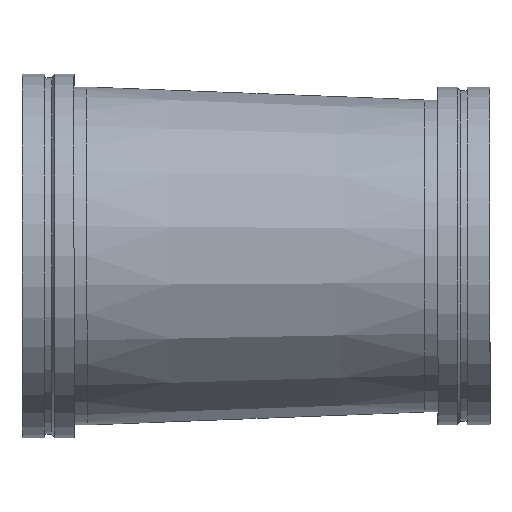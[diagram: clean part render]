
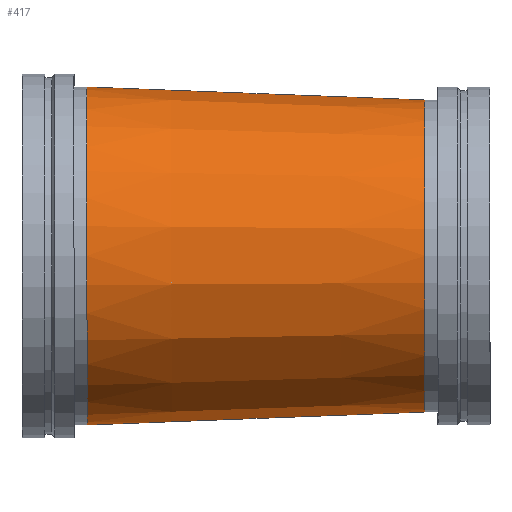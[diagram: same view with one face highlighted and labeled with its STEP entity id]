
A CAD part, top view. The second image highlights one B-rep face of the part: STEP entity #417.
In plain terms, the highlighted conical face has half-angle 2.203 degrees and reference radius 317.5 mm.
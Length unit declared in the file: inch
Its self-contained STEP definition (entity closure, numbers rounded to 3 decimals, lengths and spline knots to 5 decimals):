
#46=CONICAL_SURFACE('',#475,12.5,0.038);
#54=LINE('',#739,#68);
#68=VECTOR('',#587,12.5);
#101=FACE_OUTER_BOUND('',#124,.T.);
#124=EDGE_LOOP('',(#315,#316,#317,#318,#319,#320));
#155=CIRCLE('',#473,13.);
#156=CIRCLE('',#474,13.);
#157=CIRCLE('',#476,12.);
#158=CIRCLE('',#477,12.);
#195=VERTEX_POINT('',#729);
#196=VERTEX_POINT('',#730);
#197=VERTEX_POINT('',#735);
#198=VERTEX_POINT('',#736);
#239=EDGE_CURVE('',#195,#196,#155,.T.);
#240=EDGE_CURVE('',#196,#195,#156,.T.);
#242=EDGE_CURVE('',#197,#198,#157,.T.);
#243=EDGE_CURVE('',#198,#197,#158,.T.);
#244=EDGE_CURVE('',#198,#196,#54,.T.);
#315=ORIENTED_EDGE('',*,*,#242,.F.);
#316=ORIENTED_EDGE('',*,*,#243,.F.);
#317=ORIENTED_EDGE('',*,*,#244,.T.);
#318=ORIENTED_EDGE('',*,*,#240,.T.);
#319=ORIENTED_EDGE('',*,*,#239,.T.);
#320=ORIENTED_EDGE('',*,*,#244,.F.);
#417=ADVANCED_FACE('',(#101),#46,.T.);
#473=AXIS2_PLACEMENT_3D('',#731,#576,#577);
#474=AXIS2_PLACEMENT_3D('',#732,#578,#579);
#475=AXIS2_PLACEMENT_3D('',#734,#581,#582);
#476=AXIS2_PLACEMENT_3D('',#737,#583,#584);
#477=AXIS2_PLACEMENT_3D('',#738,#585,#586);
#576=DIRECTION('center_axis',(1.,0.,0.));
#577=DIRECTION('ref_axis',(0.,0.,-1.));
#578=DIRECTION('center_axis',(1.,0.,0.));
#579=DIRECTION('ref_axis',(0.,0.,-1.));
#581=DIRECTION('center_axis',(-1.,0.,0.));
#582=DIRECTION('ref_axis',(0.,1.,0.));
#583=DIRECTION('center_axis',(1.,0.,0.));
#584=DIRECTION('ref_axis',(0.,0.,-1.));
#585=DIRECTION('center_axis',(1.,0.,0.));
#586=DIRECTION('ref_axis',(0.,0.,-1.));
#587=DIRECTION('',(-0.999,-0.038,0.));
#729=CARTESIAN_POINT('',(5.,13.,0.));
#730=CARTESIAN_POINT('',(5.,-13.,0.));
#731=CARTESIAN_POINT('Origin',(5.,0.,0.));
#732=CARTESIAN_POINT('Origin',(5.,0.,0.));
#734=CARTESIAN_POINT('Origin',(18.,0.,0.));
#735=CARTESIAN_POINT('',(31.,12.,0.));
#736=CARTESIAN_POINT('',(31.,-12.,0.));
#737=CARTESIAN_POINT('Origin',(31.,0.,0.));
#738=CARTESIAN_POINT('Origin',(31.,0.,0.));
#739=CARTESIAN_POINT('',(18.,-12.5,0.));
